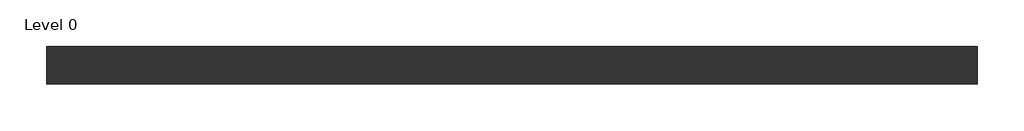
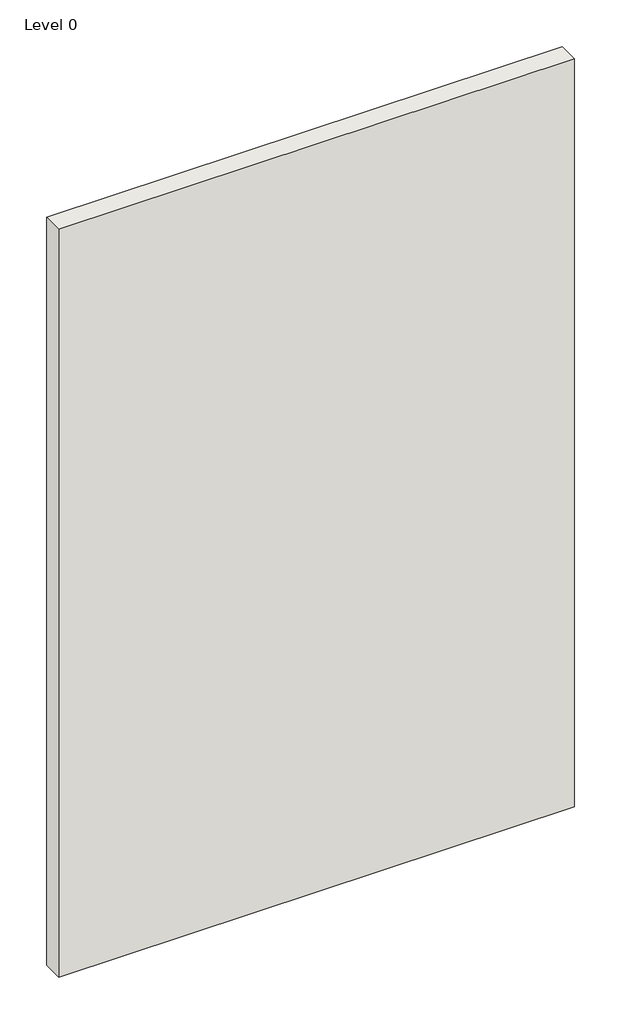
# One storey: 1 wall.
"""IFC4 building model written with IfcOpenShell, lengths in millimetres."""

from ifc_helpers import new_model, si_unit, origin, origin_with_axes, place, context, project, spatial, polyline, outline, extrude, element, save

model = new_model("IFC4")

# Units and contexts
model_context = context("Model", 3, world=origin())
ifc_project = project(units=[si_unit("LENGTHUNIT", "METRE", prefix="MILLI")], contexts=[model_context])

# Site, building, storey
site = spatial("IfcSite", under=ifc_project)
building = spatial("IfcBuilding", under=site)
storey = spatial("IfcBuildingStorey", under=building, Name="Level 0", Elevation=0.0)

# Wall
placement = place(None, origin())
element("IfcWall", 1, ObjectType="A206015 - GypWall CLASSIC", at=placement, inside=storey, context=model_context, shape_type="SweptSolid", body=[
    extrude(outline(polyline([(2116.0807354, 532.7205641), (-883.9192646, 532.7205641), (-883.9192646, 654.7205641), (2116.0807354, 654.7205641), (2116.0807354, 532.7205641)])), origin_with_axes(), (0.0, 0.0, 1.0), 4600.0),
])

save(model, "model.ifc")
